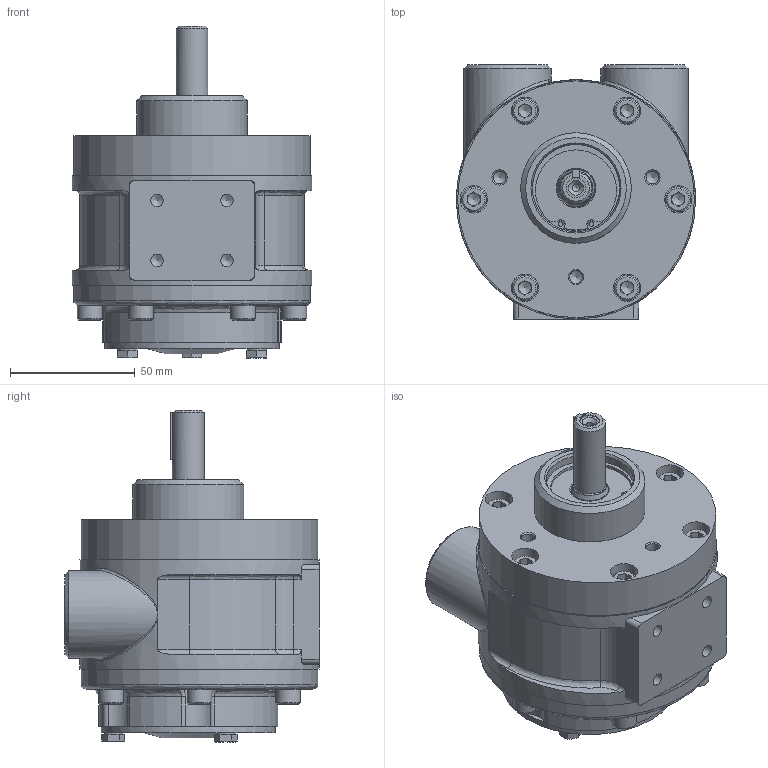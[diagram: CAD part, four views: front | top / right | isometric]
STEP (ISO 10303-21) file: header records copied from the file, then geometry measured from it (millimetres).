
FILE_DESCRIPTION (( 'STEP AP214' ), '1' );
FILE_NAME ('VA4X Defeature.STEP', '2022-06-14T07:46:40', ( '' ), ( '' ), 'SwSTEP 2.0', 'SolidWorks 2020', '' );
FILE_SCHEMA (( 'AUTOMOTIVE_DESIGN' ));
Length unit declared in the file: millimetre
Products named in the file (1): VA4X Defeature
Bounding box: 96 x 102 x 133.2 mm (x, y, z)
Volume: 590193.3 mm3; surface area: 56416.9 mm2
Topology: 1 solids, 1 shells, 473 faces, 1136 edges, 682 vertices
Faces by surface type: plane 262, cylinder 96, cone 67, bspline 48
Full cylindrical faces by diameter (mm): 1.9 x2, 3 x1, 5 x4, 5.105 x3, 8 x4, 10 x12, 11 x6, 12.7 x1, 15 x1, 15.3 x1, 18.631 x2, 34 x1, 35 x4, 37 x1, 44.4 x1, 70 x1, 95 x2, 96 x2
Entity records: 17870 total; most frequent: CARTESIAN_POINT 6550, DIRECTION 2029, ORIENTED_EDGE 1922, EDGE_CURVE 961, AXIS2_PLACEMENT_3D 782, VERTEX_POINT 618, EDGE_LOOP 605, FACE_OUTER_BOUND 524
